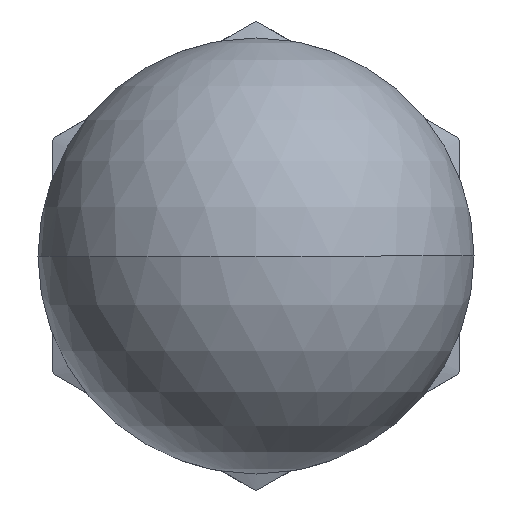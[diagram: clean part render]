
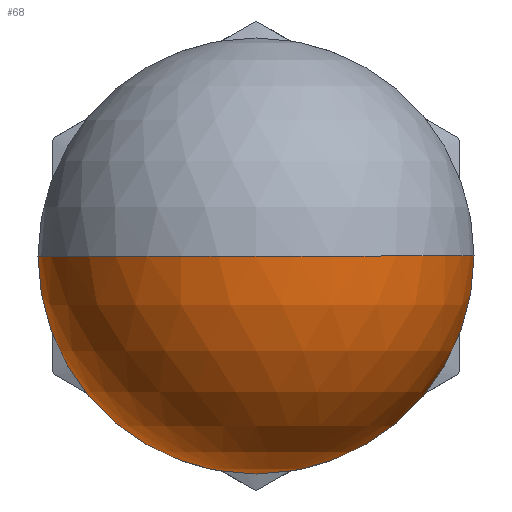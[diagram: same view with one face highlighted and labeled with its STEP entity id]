
A CAD part, front view. The second image highlights one B-rep face of the part: STEP entity #68.
In plain terms, the highlighted spherical face has radius 7.5 mm.
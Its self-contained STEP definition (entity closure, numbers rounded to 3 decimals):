
#68=ADVANCED_FACE('NONE',(#172),#173,.T.);
#172=FACE_OUTER_BOUND('',#309,.T.);
#173=SPHERICAL_SURFACE('',#310,7.5);
#309=EDGE_LOOP('',(#440,#441,#442,#443));
#310=AXIS2_PLACEMENT_3D('',#444,#445,#446);
#440=ORIENTED_EDGE('',*,*,#821,.F.);
#441=ORIENTED_EDGE('',*,*,#822,.F.);
#442=ORIENTED_EDGE('',*,*,#823,.T.);
#443=ORIENTED_EDGE('',*,*,#824,.F.);
#444=CARTESIAN_POINT('',(0.,-14.5,0.0));
#445=DIRECTION('',(0.0,0.0,1.0));
#446=DIRECTION('',(-1.0,0.,0.0));
#821=EDGE_CURVE('',#969,#970,#971,.T.);
#822=EDGE_CURVE('NONE',#972,#969,#973,.T.);
#823=EDGE_CURVE('NONE',#972,#974,#975,.T.);
#824=EDGE_CURVE('',#970,#974,#976,.T.);
#969=VERTEX_POINT('',#1180);
#970=VERTEX_POINT('',#1181);
#971=CIRCLE('',#1182,7.5);
#972=VERTEX_POINT('NONE',#1183);
#973=CIRCLE('',#1184,7.5);
#974=VERTEX_POINT('',#1185);
#975=CIRCLE('',#1186,7.5);
#976=CIRCLE('',#1187,7.5);
#1180=CARTESIAN_POINT('',(7.5,-14.5,0.));
#1181=CARTESIAN_POINT('',(0.,-14.5,-7.5));
#1182=AXIS2_PLACEMENT_3D('',#1562,#1563,#1564);
#1183=CARTESIAN_POINT('',(0.,-22.0,0.0));
#1184=AXIS2_PLACEMENT_3D('',#1565,#1566,#1567);
#1185=CARTESIAN_POINT('',(-7.5,-14.5,0.0));
#1186=AXIS2_PLACEMENT_3D('',#1568,#1569,#1570);
#1187=AXIS2_PLACEMENT_3D('',#1571,#1572,#1573);
#1562=CARTESIAN_POINT('',(0.,-14.5,0.0));
#1563=DIRECTION('',(-0.0,1.0,0.0));
#1564=DIRECTION('',(0.0,0.0,-1.0));
#1565=CARTESIAN_POINT('',(0.,-14.5,0.0));
#1566=DIRECTION('',(0.,0.,1.0));
#1567=DIRECTION('',(1.0,0.0,0.));
#1568=CARTESIAN_POINT('',(0.,-14.5,0.0));
#1569=DIRECTION('',(0.0,0.0,-1.0));
#1570=DIRECTION('',(-1.0,0.0,0.0));
#1571=CARTESIAN_POINT('',(0.,-14.5,0.0));
#1572=DIRECTION('',(-0.0,1.0,0.0));
#1573=DIRECTION('',(0.0,0.0,-1.0));
